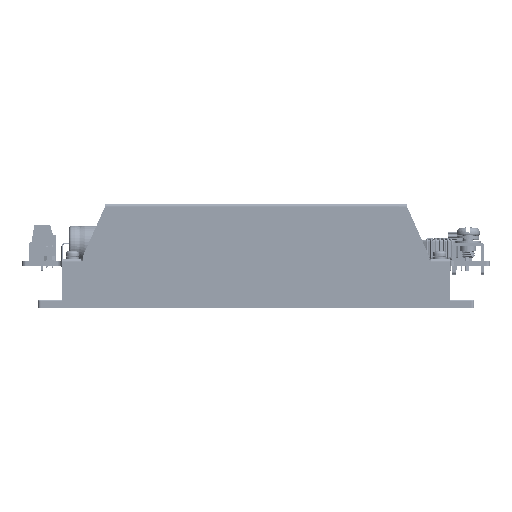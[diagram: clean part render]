
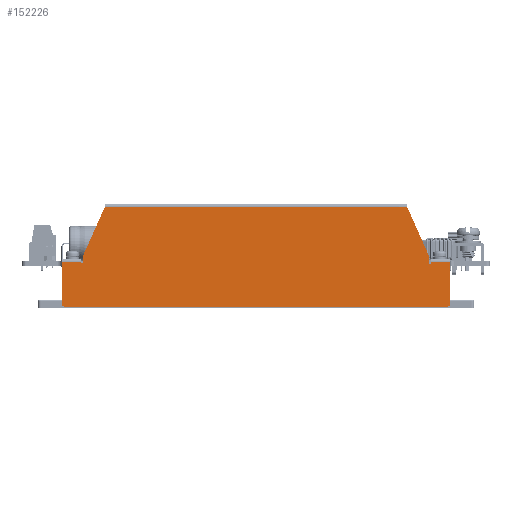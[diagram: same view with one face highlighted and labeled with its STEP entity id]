
A CAD part, top view. The second image highlights one B-rep face of the part: STEP entity #152226.
In plain terms, the highlighted planar face has unit normal (0, 0, 1).
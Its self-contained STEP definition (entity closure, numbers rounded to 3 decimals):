
#1211 = EDGE_CURVE ( 'NONE', #66026, #22794, #11591, .T. ) ;
#1569 = LINE ( 'NONE', #25038, #143910 ) ;
#5687 = FACE_OUTER_BOUND ( 'NONE', #36519, .T. ) ;
#6852 = ORIENTED_EDGE ( 'NONE', *, *, #71158, .F. ) ;
#9553 = EDGE_CURVE ( 'NONE', #79784, #66026, #128478, .T. ) ;
#9632 = EDGE_CURVE ( 'NONE', #130063, #139025, #82304, .T. ) ;
#11591 = LINE ( 'NONE', #49262, #14911 ) ;
#14080 = ORIENTED_EDGE ( 'NONE', *, *, #65397, .F. ) ;
#14911 = VECTOR ( 'NONE', #112226, 1000. ) ;
#14961 = DIRECTION ( 'NONE',  ( -1., 0., 0. ) ) ;
#17504 = LINE ( 'NONE', #29229, #92717 ) ;
#18135 = DIRECTION ( 'NONE',  ( 0.408, -0.913, 0. ) ) ;
#18491 = DIRECTION ( 'NONE',  ( 0., 1., 0. ) ) ;
#19969 = CARTESIAN_POINT ( 'NONE',  ( 48.462, 15.264, 39.28 ) ) ;
#21190 = CARTESIAN_POINT ( 'NONE',  ( 56.606, 12.73, 39.28 ) ) ;
#21544 = CARTESIAN_POINT ( 'NONE',  ( 56.606, -3.27, 39.28 ) ) ;
#22337 = CARTESIAN_POINT ( 'NONE',  ( -89.394, -4.27, 39.28 ) ) ;
#22794 = VERTEX_POINT ( 'NONE', #163163 ) ;
#23251 = CIRCLE ( 'NONE', #47318, 0.5 ) ;
#23531 = LINE ( 'NONE', #148532, #58862 ) ;
#24308 = AXIS2_PLACEMENT_3D ( 'NONE', #31576, #82809, #133936 ) ;
#24591 = CARTESIAN_POINT ( 'NONE',  ( -82.294, 12.23, 39.28 ) ) ;
#25008 = ORIENTED_EDGE ( 'NONE', *, *, #162030, .F. ) ;
#25038 = CARTESIAN_POINT ( 'NONE',  ( -83.294, 33.53, 39.28 ) ) ;
#28042 = LINE ( 'NONE', #55725, #106533 ) ;
#28790 = ORIENTED_EDGE ( 'NONE', *, *, #72011, .F. ) ;
#29043 = VECTOR ( 'NONE', #81913, 1000. ) ;
#29229 = CARTESIAN_POINT ( 'NONE',  ( 48.506, 12.93, 39.28 ) ) ;
#29327 = CARTESIAN_POINT ( 'NONE',  ( 55.606, -4.27, 39.28 ) ) ;
#29453 = DIRECTION ( 'NONE',  ( -1., 0., 0. ) ) ;
#29892 = EDGE_CURVE ( 'NONE', #45380, #32410, #85964, .T. ) ;
#30555 = ORIENTED_EDGE ( 'NONE', *, *, #160028, .T. ) ;
#30573 = VERTEX_POINT ( 'NONE', #118560 ) ;
#30785 = DIRECTION ( 'NONE',  ( 0., 0., 1. ) ) ;
#31576 = CARTESIAN_POINT ( 'NONE',  ( -83.294, 12.93, 39.28 ) ) ;
#31626 = VERTEX_POINT ( 'NONE', #134467 ) ;
#32325 = LINE ( 'NONE', #81871, #162017 ) ;
#32366 = DIRECTION ( 'NONE',  ( 0., 0., 1. ) ) ;
#32410 = VERTEX_POINT ( 'NONE', #19969 ) ;
#34085 = CARTESIAN_POINT ( 'NONE',  ( -73.994, 33.73, 39.28 ) ) ;
#35661 = VERTEX_POINT ( 'NONE', #138277 ) ;
#35738 = ORIENTED_EDGE ( 'NONE', *, *, #29892, .T. ) ;
#36519 = EDGE_LOOP ( 'NONE', ( #25008, #50159, #6852, #83640, #55419, #83766, #28790, #135354, #81311, #93529, #134984, #99234, #54726, #126523, #115581, #35738, #14080, #30555 ) ) ;
#37490 = VECTOR ( 'NONE', #114162, 1000. ) ;
#39486 = DIRECTION ( 'NONE',  ( -1., 0., 0. ) ) ;
#41960 = LINE ( 'NONE', #143473, #106854 ) ;
#42498 = VERTEX_POINT ( 'NONE', #76766 ) ;
#45380 = VERTEX_POINT ( 'NONE', #102555 ) ;
#47318 = AXIS2_PLACEMENT_3D ( 'NONE', #67668, #32366, #80291 ) ;
#48750 = EDGE_CURVE ( 'NONE', #31626, #138651, #23251, .T. ) ;
#49131 = LINE ( 'NONE', #34085, #122006 ) ;
#49262 = CARTESIAN_POINT ( 'NONE',  ( 49.506, 12.93, 39.28 ) ) ;
#50109 = AXIS2_PLACEMENT_3D ( 'NONE', #120580, #30785, #143227 ) ;
#50159 = ORIENTED_EDGE ( 'NONE', *, *, #48750, .T. ) ;
#54005 = CARTESIAN_POINT ( 'NONE',  ( -83.294, 12.93, 39.28 ) ) ;
#54635 = EDGE_CURVE ( 'NONE', #79784, #58223, #87335, .T. ) ;
#54726 = ORIENTED_EDGE ( 'NONE', *, *, #1211, .T. ) ;
#55419 = ORIENTED_EDGE ( 'NONE', *, *, #74276, .T. ) ;
#55725 = CARTESIAN_POINT ( 'NONE',  ( -83.294, 12.73, 39.28 ) ) ;
#56782 = PLANE ( 'NONE',  #24308 ) ;
#58223 = VERTEX_POINT ( 'NONE', #21544 ) ;
#58862 = VECTOR ( 'NONE', #161944, 1000. ) ;
#59554 = DIRECTION ( 'NONE',  ( 0., -1., 0. ) ) ;
#61769 = DIRECTION ( 'NONE',  ( 0.408, 0.913, 0. ) ) ;
#64307 = VECTOR ( 'NONE', #131980, 1000. ) ;
#65397 = EDGE_CURVE ( 'NONE', #35661, #32410, #32325, .T. ) ;
#66009 = CARTESIAN_POINT ( 'NONE',  ( -82.294, 12.93, 39.28 ) ) ;
#66026 = VERTEX_POINT ( 'NONE', #104928 ) ;
#67668 = CARTESIAN_POINT ( 'NONE',  ( -81.794, 15.06, 39.28 ) ) ;
#68294 = DIRECTION ( 'NONE',  ( -1., 0., 0. ) ) ;
#69229 = VECTOR ( 'NONE', #139388, 1000. ) ;
#71158 = EDGE_CURVE ( 'NONE', #87033, #138651, #145599, .T. ) ;
#72011 = EDGE_CURVE ( 'NONE', #42498, #87084, #94797, .T. ) ;
#72043 = VECTOR ( 'NONE', #18491, 1000. ) ;
#74276 = EDGE_CURVE ( 'NONE', #125392, #30573, #78365, .T. ) ;
#75153 = VERTEX_POINT ( 'NONE', #131449 ) ;
#76766 = CARTESIAN_POINT ( 'NONE',  ( -90.394, -3.27, 39.28 ) ) ;
#77096 = CARTESIAN_POINT ( 'NONE',  ( -83.294, 12.23, 39.28 ) ) ;
#77246 = EDGE_CURVE ( 'NONE', #30573, #87084, #28042, .T. ) ;
#78365 = LINE ( 'NONE', #54005, #64307 ) ;
#79784 = VERTEX_POINT ( 'NONE', #21190 ) ;
#80291 = DIRECTION ( 'NONE',  ( 0., -1., 0. ) ) ;
#81311 = ORIENTED_EDGE ( 'NONE', *, *, #9632, .F. ) ;
#81871 = CARTESIAN_POINT ( 'NONE',  ( 40.206, 33.73, 39.28 ) ) ;
#81913 = DIRECTION ( 'NONE',  ( 0., 1., 0. ) ) ;
#82304 = LINE ( 'NONE', #144358, #149506 ) ;
#82809 = DIRECTION ( 'NONE',  ( 0., 0., 1. ) ) ;
#83640 = ORIENTED_EDGE ( 'NONE', *, *, #129830, .T. ) ;
#83766 = ORIENTED_EDGE ( 'NONE', *, *, #77246, .T. ) ;
#85543 = EDGE_CURVE ( 'NONE', #75153, #45380, #17504, .T. ) ;
#85964 = CIRCLE ( 'NONE', #120816, 0.5 ) ;
#87033 = VERTEX_POINT ( 'NONE', #24591 ) ;
#87084 = VERTEX_POINT ( 'NONE', #165482 ) ;
#87335 = LINE ( 'NONE', #136847, #37490 ) ;
#90428 = CARTESIAN_POINT ( 'NONE',  ( -74.084, 33.53, 39.28 ) ) ;
#91332 = CIRCLE ( 'NONE', #118146, 1. ) ;
#92717 = VECTOR ( 'NONE', #104776, 1000. ) ;
#93529 = ORIENTED_EDGE ( 'NONE', *, *, #160066, .T. ) ;
#94797 = LINE ( 'NONE', #157678, #72043 ) ;
#99234 = ORIENTED_EDGE ( 'NONE', *, *, #9553, .T. ) ;
#100076 = EDGE_CURVE ( 'NONE', #42498, #139025, #91332, .T. ) ;
#102503 = CARTESIAN_POINT ( 'NONE',  ( 56.606, 12.73, 39.28 ) ) ;
#102555 = CARTESIAN_POINT ( 'NONE',  ( 48.506, 15.06, 39.28 ) ) ;
#104776 = DIRECTION ( 'NONE',  ( 0., 1., 0. ) ) ;
#104928 = CARTESIAN_POINT ( 'NONE',  ( 49.506, 12.73, 39.28 ) ) ;
#106533 = VECTOR ( 'NONE', #68294, 1000. ) ;
#106854 = VECTOR ( 'NONE', #39486, 1000. ) ;
#108231 = CARTESIAN_POINT ( 'NONE',  ( 48.006, 15.06, 39.28 ) ) ;
#112226 = DIRECTION ( 'NONE',  ( 0., -1., 0. ) ) ;
#114162 = DIRECTION ( 'NONE',  ( 0., -1., 0. ) ) ;
#115581 = ORIENTED_EDGE ( 'NONE', *, *, #85543, .T. ) ;
#117287 = DIRECTION ( 'NONE',  ( 0., 0., 1. ) ) ;
#118146 = AXIS2_PLACEMENT_3D ( 'NONE', #132322, #117287, #141608 ) ;
#118560 = CARTESIAN_POINT ( 'NONE',  ( -83.294, 12.73, 39.28 ) ) ;
#120580 = CARTESIAN_POINT ( 'NONE',  ( 55.606, -3.27, 39.28 ) ) ;
#120816 = AXIS2_PLACEMENT_3D ( 'NONE', #108231, #159361, #59554 ) ;
#122006 = VECTOR ( 'NONE', #61769, 1000. ) ;
#122481 = CIRCLE ( 'NONE', #50109, 1. ) ;
#123448 = CARTESIAN_POINT ( 'NONE',  ( -82.294, 15.06, 39.28 ) ) ;
#125392 = VERTEX_POINT ( 'NONE', #77096 ) ;
#126523 = ORIENTED_EDGE ( 'NONE', *, *, #139990, .T. ) ;
#128478 = LINE ( 'NONE', #102503, #69229 ) ;
#129830 = EDGE_CURVE ( 'NONE', #87033, #125392, #23531, .T. ) ;
#130063 = VERTEX_POINT ( 'NONE', #29327 ) ;
#130641 = VERTEX_POINT ( 'NONE', #90428 ) ;
#131449 = CARTESIAN_POINT ( 'NONE',  ( 48.506, 11.73, 39.28 ) ) ;
#131980 = DIRECTION ( 'NONE',  ( 0., 1., 0. ) ) ;
#132322 = CARTESIAN_POINT ( 'NONE',  ( -89.394, -3.27, 39.28 ) ) ;
#133936 = DIRECTION ( 'NONE',  ( 0., -1., 0. ) ) ;
#134467 = CARTESIAN_POINT ( 'NONE',  ( -82.251, 15.264, 39.28 ) ) ;
#134984 = ORIENTED_EDGE ( 'NONE', *, *, #54635, .F. ) ;
#135354 = ORIENTED_EDGE ( 'NONE', *, *, #100076, .T. ) ;
#136847 = CARTESIAN_POINT ( 'NONE',  ( 56.606, 12.93, 39.28 ) ) ;
#138277 = CARTESIAN_POINT ( 'NONE',  ( 40.295, 33.53, 39.28 ) ) ;
#138651 = VERTEX_POINT ( 'NONE', #123448 ) ;
#139025 = VERTEX_POINT ( 'NONE', #22337 ) ;
#139388 = DIRECTION ( 'NONE',  ( -1., 0., 0. ) ) ;
#139990 = EDGE_CURVE ( 'NONE', #22794, #75153, #41960, .T. ) ;
#141608 = DIRECTION ( 'NONE',  ( 0., -1., 0. ) ) ;
#143227 = DIRECTION ( 'NONE',  ( 0., -1., 0. ) ) ;
#143473 = CARTESIAN_POINT ( 'NONE',  ( -83.294, 11.73, 39.28 ) ) ;
#143910 = VECTOR ( 'NONE', #14961, 1000. ) ;
#144358 = CARTESIAN_POINT ( 'NONE',  ( 56.606, -4.27, 39.28 ) ) ;
#145599 = LINE ( 'NONE', #66009, #29043 ) ;
#148532 = CARTESIAN_POINT ( 'NONE',  ( -83.294, 12.23, 39.28 ) ) ;
#149506 = VECTOR ( 'NONE', #29453, 1000. ) ;
#152226 = ADVANCED_FACE ( 'NONE', ( #5687 ), #56782, .T. ) ;
#157678 = CARTESIAN_POINT ( 'NONE',  ( -90.394, 12.93, 39.28 ) ) ;
#159361 = DIRECTION ( 'NONE',  ( 0., 0., 1. ) ) ;
#160028 = EDGE_CURVE ( 'NONE', #35661, #130641, #1569, .T. ) ;
#160066 = EDGE_CURVE ( 'NONE', #130063, #58223, #122481, .T. ) ;
#161944 = DIRECTION ( 'NONE',  ( -1., 0., 0. ) ) ;
#162017 = VECTOR ( 'NONE', #18135, 1000. ) ;
#162030 = EDGE_CURVE ( 'NONE', #31626, #130641, #49131, .T. ) ;
#163163 = CARTESIAN_POINT ( 'NONE',  ( 49.506, 11.73, 39.28 ) ) ;
#165482 = CARTESIAN_POINT ( 'NONE',  ( -90.394, 12.73, 39.28 ) ) ;
